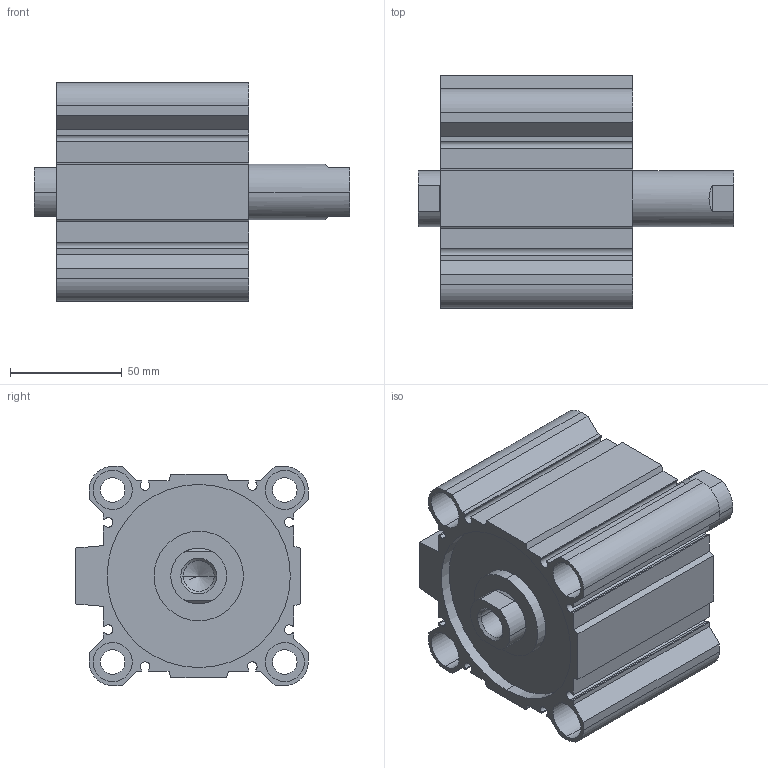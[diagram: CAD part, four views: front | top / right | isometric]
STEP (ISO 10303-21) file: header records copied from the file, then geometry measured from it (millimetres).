
FILE_DESCRIPTION (( 'STEP AP203' ), '1' );
FILE_NAME ('CCMB80-35F-P.STEP', '2020-08-05T11:50:03', ( '' ), ( '' ), 'SwSTEP 2.0', 'SolidWorks 2019', '' );
FILE_SCHEMA (( 'CONFIG_CONTROL_DESIGN' ));
Length unit declared in the file: millimetre
Products named in the file (1): CCMB80-35F-P
Bounding box: 141 x 104 x 98 mm (x, y, z)
Volume: 487267.9 mm3; surface area: 132027.2 mm2
Topology: 2 solids, 2 shells, 176 faces, 450 edges, 294 vertices
Faces by surface type: plane 90, cylinder 74, cone 12
Entity records: 5425 total; most frequent: DIRECTION 956, CARTESIAN_POINT 929, ORIENTED_EDGE 892, EDGE_CURVE 446, AXIS2_PLACEMENT_3D 337, VERTEX_POINT 294, VECTOR 282, LINE 282
